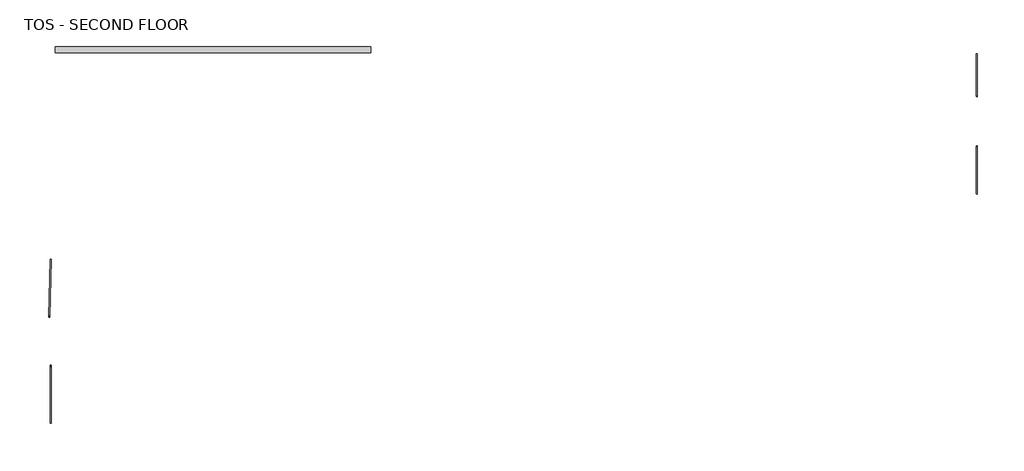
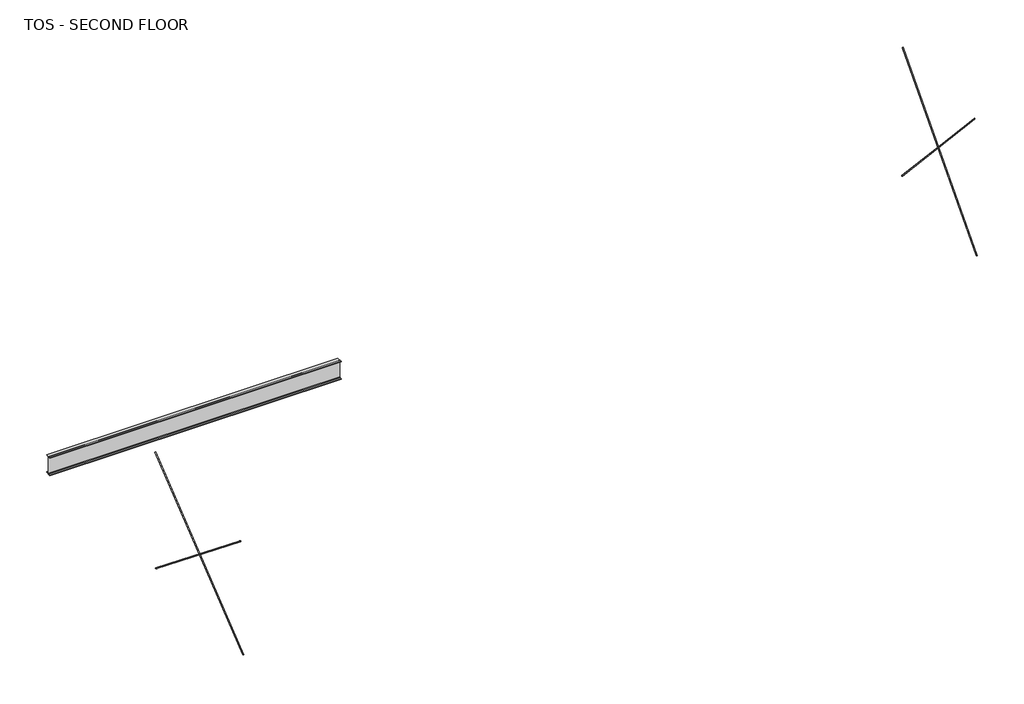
# One storey: 4 members, 1 beam.
"""IFC4 building model written with IfcOpenShell, lengths in millimetres."""

from ifc_helpers import new_model, si_unit, origin, place, context, project, spatial, transform, mapped, element, save
from components import w_wide_flange_w21x44_ac43757c, round_bar_rb1_7c849a12, round_bar_rb1_83d75e4f, round_bar_rb1_3cfdfb2d, round_bar_rb1_e14d502c

model = new_model("IFC4")

# Units and contexts
model_context = context("Model", 3, world=origin())
ifc_project = project(units=[si_unit("LENGTHUNIT", "METRE", prefix="MILLI")], contexts=[model_context])

# Site, building, storey
site = spatial("IfcSite", under=ifc_project)
building = spatial("IfcBuilding", under=site)
storey = spatial("IfcBuildingStorey", under=building, Name="TOS - SECOND FLOOR", Elevation=34378.9)

# Beam
placement = place(None, origin())
w_wide_flange_w21x44_shape = w_wide_flange_w21x44_ac43757c(model_context)
element("IfcBeam", 1, ObjectType="W-Wide Flange : W21X44", at=placement, inside=storey, context=model_context, shape_type="MappedRepresentation", body=[
    mapped(w_wide_flange_w21x44_shape, transform((-6107.7454607, 7843.2445005, 34116.01), x_axis=(1.0, 0.0, 0.0), y_axis=(0.0, 1.0, 0.0), z_axis=(0.0, 0.0, 1.0))),
])

# Members
round_bar_rb1_shape = round_bar_rb1_7c849a12(model_context)
element("IfcMember", 2, ObjectType="Round Bar : RB1", at=placement, inside=storey, context=model_context, shape_type="MappedRepresentation", body=[
    mapped(round_bar_rb1_shape, transform((13567.7295393, 5974.7570005, 36273.105), x_axis=(0.0, 0.6703732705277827, 0.7420240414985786), y_axis=(-1.0000000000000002, 0.0, 0.0), z_axis=(0.0, -0.7420240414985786, 0.6703732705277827))),
])
round_bar_rb1_2_shape = round_bar_rb1_83d75e4f(model_context)
element("IfcMember", 3, ObjectType="Round Bar : RB1", at=placement, inside=storey, context=model_context, shape_type="MappedRepresentation", body=[
    mapped(round_bar_rb1_2_shape, transform((13567.7295393, 5974.7570005, 36308.411), x_axis=(0.0, -0.6767091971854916, 0.736250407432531), y_axis=(1.0000000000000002, 0.0, 0.0), z_axis=(0.0, 0.736250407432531, 0.6767091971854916))),
])
round_bar_rb1_3_shape = round_bar_rb1_3cfdfb2d(model_context)
element("IfcMember", 4, ObjectType="Round Bar : RB1", at=placement, inside=storey, context=model_context, shape_type="MappedRepresentation", body=[
    mapped(round_bar_rb1_3_shape, transform((-10327.3204607, 323.2570005, 36086.161), x_axis=(0.0, 0.7802907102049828, 0.6254169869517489), y_axis=(-1.0000000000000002, 0.0, 0.0), z_axis=(0.0, -0.6254169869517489, 0.7802907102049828))),
])
round_bar_rb1_4_shape = round_bar_rb1_e14d502c(model_context)
element("IfcMember", 5, ObjectType="Round Bar : RB1", at=placement, inside=storey, context=model_context, shape_type="MappedRepresentation", body=[
    mapped(round_bar_rb1_4_shape, transform((-10375.5045038, 323.7709636, 36086.161), x_axis=(-0.016643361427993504, -0.7801131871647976, 0.6254169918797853), y_axis=(0.9997724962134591, -0.021329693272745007, 0.0), z_axis=(0.013339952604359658, 0.6252747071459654, 0.7802907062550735))),
])

save(model, "model.ifc")
